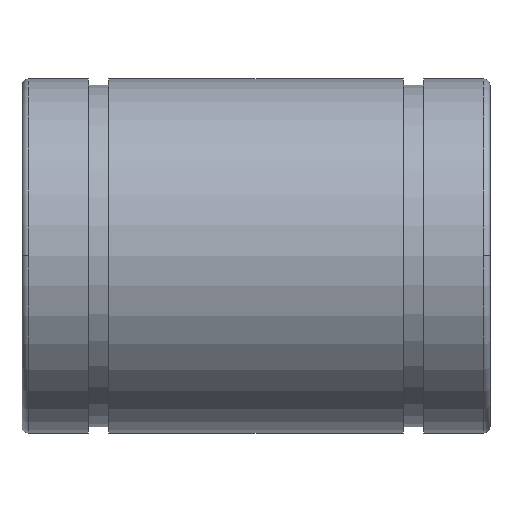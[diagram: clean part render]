
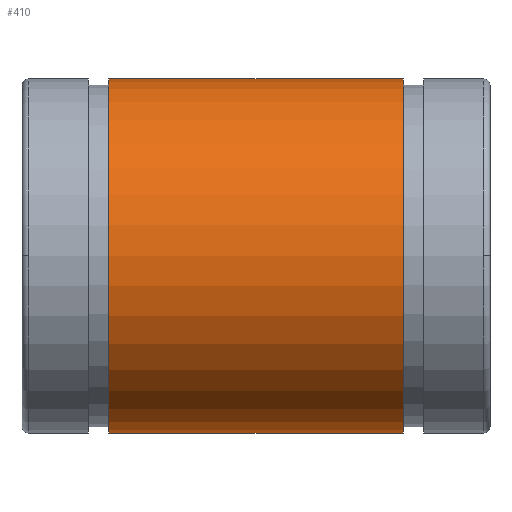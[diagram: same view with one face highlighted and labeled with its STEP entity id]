
A CAD part, top view. The second image highlights one B-rep face of the part: STEP entity #410.
In plain terms, the highlighted cylindrical face has radius 14 mm (diameter 28 mm), a partial arc.
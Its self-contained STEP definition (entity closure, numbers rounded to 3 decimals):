
#350 = PLANE('',#351);
#351 = AXIS2_PLACEMENT_3D('',#352,#353,#354);
#352 = CARTESIAN_POINT('',(11.65,13.75,0.));
#353 = DIRECTION('',(1.,0.,0.));
#354 = DIRECTION('',(-0.,1.,0.));
#410 = ADVANCED_FACE('',(#411),#425,.T.);
#411 = FACE_BOUND('',#412,.T.);
#412 = EDGE_LOOP('',(#413,#448,#481,#504));
#413 = ORIENTED_EDGE('',*,*,#414,.F.);
#414 = EDGE_CURVE('',#415,#417,#419,.T.);
#415 = VERTEX_POINT('',#416);
#416 = CARTESIAN_POINT('',(-11.65,14.,0.));
#417 = VERTEX_POINT('',#418);
#418 = CARTESIAN_POINT('',(11.65,14.,0.));
#419 = SURFACE_CURVE('',#420,(#424,#436),.PCURVE_S1.);
#420 = LINE('',#421,#422);
#421 = CARTESIAN_POINT('',(0.,14.,0.));
#422 = VECTOR('',#423,1.);
#423 = DIRECTION('',(1.,0.,0.));
#424 = PCURVE('',#425,#430);
#425 = CYLINDRICAL_SURFACE('',#426,14.);
#426 = AXIS2_PLACEMENT_3D('',#427,#428,#429);
#427 = CARTESIAN_POINT('',(0.,0.,0.));
#428 = DIRECTION('',(1.,0.,0.));
#429 = DIRECTION('',(-0.,1.,0.));
#430 = DEFINITIONAL_REPRESENTATION('',(#431),#435);
#431 = LINE('',#432,#433);
#432 = CARTESIAN_POINT('',(0.,0.));
#433 = VECTOR('',#434,1.);
#434 = DIRECTION('',(0.,1.));
#435 = ( GEOMETRIC_REPRESENTATION_CONTEXT(2) 
PARAMETRIC_REPRESENTATION_CONTEXT() REPRESENTATION_CONTEXT('2D SPACE',''
  ) );
#436 = PCURVE('',#437,#442);
#437 = CYLINDRICAL_SURFACE('',#438,14.);
#438 = AXIS2_PLACEMENT_3D('',#439,#440,#441);
#439 = CARTESIAN_POINT('',(0.,0.,0.));
#440 = DIRECTION('',(1.,0.,0.));
#441 = DIRECTION('',(-0.,1.,0.));
#442 = DEFINITIONAL_REPRESENTATION('',(#443),#447);
#443 = LINE('',#444,#445);
#444 = CARTESIAN_POINT('',(6.283,0.));
#445 = VECTOR('',#446,1.);
#446 = DIRECTION('',(0.,1.));
#447 = ( GEOMETRIC_REPRESENTATION_CONTEXT(2) 
PARAMETRIC_REPRESENTATION_CONTEXT() REPRESENTATION_CONTEXT('2D SPACE',''
  ) );
#448 = ORIENTED_EDGE('',*,*,#449,.T.);
#449 = EDGE_CURVE('',#415,#450,#452,.T.);
#450 = VERTEX_POINT('',#451);
#451 = CARTESIAN_POINT('',(-11.65,-14.,0.));
#452 = SURFACE_CURVE('',#453,(#458,#465),.PCURVE_S1.);
#453 = CIRCLE('',#454,14.);
#454 = AXIS2_PLACEMENT_3D('',#455,#456,#457);
#455 = CARTESIAN_POINT('',(-11.65,0.,0.));
#456 = DIRECTION('',(1.,0.,0.));
#457 = DIRECTION('',(-0.,1.,0.));
#458 = PCURVE('',#425,#459);
#459 = DEFINITIONAL_REPRESENTATION('',(#460),#464);
#460 = LINE('',#461,#462);
#461 = CARTESIAN_POINT('',(0.,-11.65));
#462 = VECTOR('',#463,1.);
#463 = DIRECTION('',(1.,0.));
#464 = ( GEOMETRIC_REPRESENTATION_CONTEXT(2) 
PARAMETRIC_REPRESENTATION_CONTEXT() REPRESENTATION_CONTEXT('2D SPACE',''
  ) );
#465 = PCURVE('',#466,#471);
#466 = PLANE('',#467);
#467 = AXIS2_PLACEMENT_3D('',#468,#469,#470);
#468 = CARTESIAN_POINT('',(-11.65,13.75,0.));
#469 = DIRECTION('',(-1.,-0.,0.));
#470 = DIRECTION('',(0.,-1.,-0.));
#471 = DEFINITIONAL_REPRESENTATION('',(#472),#480);
#472 = ( BOUNDED_CURVE() B_SPLINE_CURVE(2,(#473,#474,#475,#476,#477,#478
,#479),.UNSPECIFIED.,.T.,.F.) B_SPLINE_CURVE_WITH_KNOTS((1,2,2,2,2,1),(
    -2.094,0.,2.094,4.189,6.283,
8.378),.UNSPECIFIED.) CURVE() GEOMETRIC_REPRESENTATION_ITEM() 
RATIONAL_B_SPLINE_CURVE((1.,0.5,1.,0.5,1.,0.5,1.)) REPRESENTATION_ITEM(
  '') );
#473 = CARTESIAN_POINT('',(-0.25,0.));
#474 = CARTESIAN_POINT('',(-0.25,24.249));
#475 = CARTESIAN_POINT('',(20.75,12.124));
#476 = CARTESIAN_POINT('',(41.75,0.));
#477 = CARTESIAN_POINT('',(20.75,-12.124));
#478 = CARTESIAN_POINT('',(-0.25,-24.249));
#479 = CARTESIAN_POINT('',(-0.25,0.));
#480 = ( GEOMETRIC_REPRESENTATION_CONTEXT(2) 
PARAMETRIC_REPRESENTATION_CONTEXT() REPRESENTATION_CONTEXT('2D SPACE',''
  ) );
#481 = ORIENTED_EDGE('',*,*,#482,.F.);
#482 = EDGE_CURVE('',#483,#450,#485,.T.);
#483 = VERTEX_POINT('',#484);
#484 = CARTESIAN_POINT('',(11.65,-14.,0.));
#485 = SURFACE_CURVE('',#486,(#490,#497),.PCURVE_S1.);
#486 = LINE('',#487,#488);
#487 = CARTESIAN_POINT('',(0.,-14.,0.));
#488 = VECTOR('',#489,1.);
#489 = DIRECTION('',(-1.,-0.,-0.));
#490 = PCURVE('',#425,#491);
#491 = DEFINITIONAL_REPRESENTATION('',(#492),#496);
#492 = LINE('',#493,#494);
#493 = CARTESIAN_POINT('',(3.142,0.));
#494 = VECTOR('',#495,1.);
#495 = DIRECTION('',(0.,-1.));
#496 = ( GEOMETRIC_REPRESENTATION_CONTEXT(2) 
PARAMETRIC_REPRESENTATION_CONTEXT() REPRESENTATION_CONTEXT('2D SPACE',''
  ) );
#497 = PCURVE('',#437,#498);
#498 = DEFINITIONAL_REPRESENTATION('',(#499),#503);
#499 = LINE('',#500,#501);
#500 = CARTESIAN_POINT('',(3.142,0.));
#501 = VECTOR('',#502,1.);
#502 = DIRECTION('',(0.,-1.));
#503 = ( GEOMETRIC_REPRESENTATION_CONTEXT(2) 
PARAMETRIC_REPRESENTATION_CONTEXT() REPRESENTATION_CONTEXT('2D SPACE',''
  ) );
#504 = ORIENTED_EDGE('',*,*,#505,.F.);
#505 = EDGE_CURVE('',#417,#483,#506,.T.);
#506 = SURFACE_CURVE('',#507,(#512,#519),.PCURVE_S1.);
#507 = CIRCLE('',#508,14.);
#508 = AXIS2_PLACEMENT_3D('',#509,#510,#511);
#509 = CARTESIAN_POINT('',(11.65,0.,0.));
#510 = DIRECTION('',(1.,0.,0.));
#511 = DIRECTION('',(-0.,1.,0.));
#512 = PCURVE('',#425,#513);
#513 = DEFINITIONAL_REPRESENTATION('',(#514),#518);
#514 = LINE('',#515,#516);
#515 = CARTESIAN_POINT('',(0.,11.65));
#516 = VECTOR('',#517,1.);
#517 = DIRECTION('',(1.,0.));
#518 = ( GEOMETRIC_REPRESENTATION_CONTEXT(2) 
PARAMETRIC_REPRESENTATION_CONTEXT() REPRESENTATION_CONTEXT('2D SPACE',''
  ) );
#519 = PCURVE('',#350,#520);
#520 = DEFINITIONAL_REPRESENTATION('',(#521),#525);
#521 = CIRCLE('',#522,14.);
#522 = AXIS2_PLACEMENT_2D('',#523,#524);
#523 = CARTESIAN_POINT('',(-13.75,0.));
#524 = DIRECTION('',(1.,0.));
#525 = ( GEOMETRIC_REPRESENTATION_CONTEXT(2) 
PARAMETRIC_REPRESENTATION_CONTEXT() REPRESENTATION_CONTEXT('2D SPACE',''
  ) );
